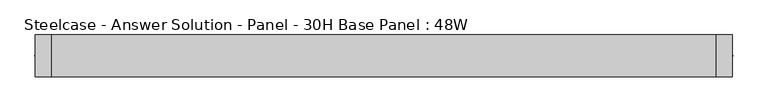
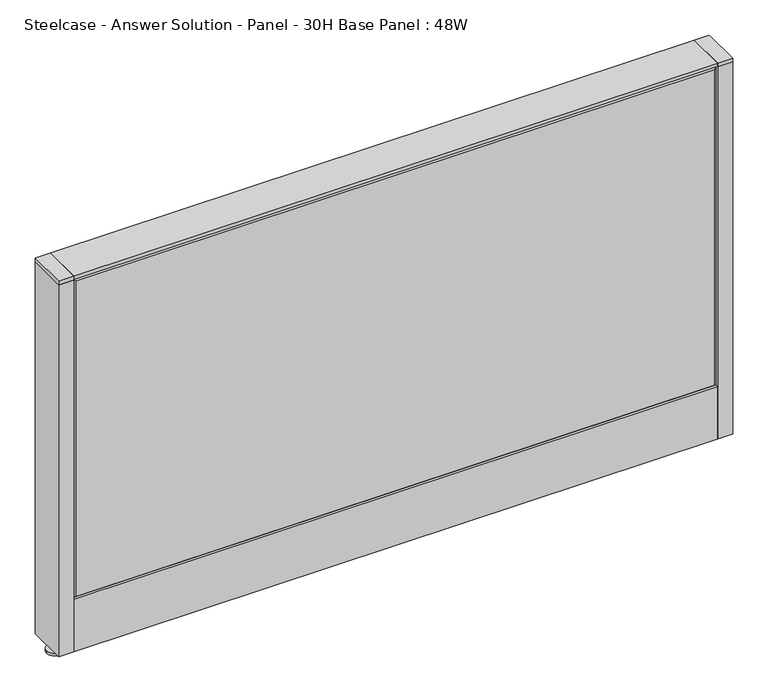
"""IFC4 building model written with IfcOpenShell, lengths in millimetres: furniture geometry, Steelcase - Answer Solution - Panel - 30H Base Panel : 48W."""

from ifc_helpers import new_model, si_unit, point, frame, frame_2d, origin, place, context, project, spatial, polyline, circle_curve, trimmed, segment, composite_curve, outline, extrude, faceted_brep, source, transform, mapped, element, save


def steelcase_answer_solution_panel_30h_base_panel_48w_a3dd4e59(model_context):
    return source(origin(), model_context, "Body", "SolidModel", [
        extrude(outline(composite_curve([segment(trimmed(circle_curve(frame_2d((623.824, 0.0320214)), 5.08), [point((628.904, 0.0320214))], [point((618.744, 0.0320214))], False, "CARTESIAN"), True, "CONTINUOUS"), segment(trimmed(circle_curve(frame_2d((623.824, 0.0320214)), 5.08), [point((618.744, 0.0320214))], [point((628.904, 0.0320214))], False, "CARTESIAN"), True, "CONTINUOUS")], self_intersect=False)), frame((0.0, 0.0, 5.0799671), z_axis=(0.0, 0.0, 1.0), x_axis=(1.0, 0.0, 0.0)), (0.0, 0.0, 1.0), 10.414),
        extrude(outline(composite_curve([segment(trimmed(circle_curve(frame_2d((623.824, 0.0320214)), 15.24), [point((639.064, 0.0320214))], [point((608.584, 0.0320214))], False, "CARTESIAN"), True, "CONTINUOUS"), segment(trimmed(circle_curve(frame_2d((623.824, 0.0320214)), 15.24), [point((608.584, 0.0320214))], [point((639.064, 0.0320214))], False, "CARTESIAN"), True, "CONTINUOUS")], self_intersect=False)), frame((0.0, 0.0, -3.29e-05), z_axis=(0.0, 0.0, 1.0), x_axis=(1.0, 0.0, 0.0)), (0.0, 0.0, 1.0), 5.08),
        extrude(outline(polyline([(638.175, 38.1320408), (638.175, -38.0679592), (609.6, -38.0679592), (609.6, 38.1320408), (638.175, 38.1320408)])), frame((0.0, 0.0, 761.0348), z_axis=(0.0, 0.0, 1.0), x_axis=(1.0, 0.0, 0.0)), (0.0, 0.0, 1.0), 7.3151671),
        extrude(outline(polyline([(638.175, 38.1320408), (638.175, -38.0679592), (609.6, -38.0679592), (609.6, 38.1320408), (638.175, 38.1320408)])), frame((0.0, 0.0, 15.4939671), z_axis=(0.0, 0.0, 1.0), x_axis=(1.0, 0.0, 0.0)), (0.0, 0.0, 1.0), 745.5408329),
        extrude(outline(composite_curve([segment(trimmed(circle_curve(frame_2d((-623.824, -0.0320214)), 5.08), [point((-628.904, -0.0320214))], [point((-618.744, -0.0320214))], False, "CARTESIAN"), True, "CONTINUOUS"), segment(trimmed(circle_curve(frame_2d((-623.824, -0.0320214)), 5.08), [point((-618.744, -0.0320214))], [point((-628.904, -0.0320214))], False, "CARTESIAN"), True, "CONTINUOUS")], self_intersect=False)), frame((0.0, 0.0, 5.0799671), z_axis=(0.0, 0.0, 1.0), x_axis=(1.0, 0.0, 0.0)), (0.0, 0.0, 1.0), 10.414),
        extrude(outline(composite_curve([segment(trimmed(circle_curve(frame_2d((-623.824, -0.0320214)), 15.24), [point((-639.064, -0.0320214))], [point((-608.584, -0.0320214))], False, "CARTESIAN"), True, "CONTINUOUS"), segment(trimmed(circle_curve(frame_2d((-623.824, -0.0320214)), 15.24), [point((-608.584, -0.0320214))], [point((-639.064, -0.0320214))], False, "CARTESIAN"), True, "CONTINUOUS")], self_intersect=False)), frame((0.0, 0.0, -3.29e-05), z_axis=(0.0, 0.0, 1.0), x_axis=(1.0, 0.0, 0.0)), (0.0, 0.0, 1.0), 5.08),
        extrude(outline(polyline([(-638.175, -38.1320408), (-638.175, 38.0679592), (-609.6, 38.0679592), (-609.6, -38.1320408), (-638.175, -38.1320408)])), frame((0.0, 0.0, 761.0348), z_axis=(0.0, 0.0, 1.0), x_axis=(1.0, 0.0, 0.0)), (0.0, 0.0, 1.0), 7.3151671),
        extrude(outline(polyline([(-638.175, -38.1320408), (-638.175, 38.0679592), (-609.6, 38.0679592), (-609.6, -38.1320408), (-638.175, -38.1320408)])), frame((0.0, 0.0, 15.4939671), z_axis=(0.0, 0.0, 1.0), x_axis=(1.0, 0.0, 0.0)), (0.0, 0.0, 1.0), 745.5408329),
        faceted_brep([(604.774, 38.1635011, 757.174), (604.774, 38.1635011, 125.476), (-604.774, 38.1635011, 125.476), (-604.774, 38.1635011, 757.174), (609.6, 33.3375011, 762.0), (-609.6, 33.3375011, 762.0), (-609.6, 33.3375011, 120.65), (609.6, 33.3375011, 120.65)], [[[0, 1, 2, 3]], [[4, 5, 6, 7]], [[4, 0, 3, 5]], [[5, 3, 2, 6]], [[6, 2, 1, 7]], [[7, 1, 0, 4]]]),
        faceted_brep([(604.774, -38.1635011, 757.174), (-604.774, -38.1635011, 757.174), (-604.774, -38.1635011, 125.476), (604.774, -38.1635011, 125.476), (609.6, -33.3375011, 762.0), (609.6, -33.3375011, 120.65), (-609.6, -33.3375011, 120.65), (-609.6, -33.3375011, 762.0)], [[[0, 1, 2, 3]], [[4, 5, 6, 7]], [[4, 7, 1, 0]], [[7, 6, 2, 1]], [[6, 5, 3, 2]], [[5, 4, 0, 3]]]),
        extrude(outline(polyline([(609.6, 38.1000194), (609.6, -38.1000194), (-609.6, -38.1000194), (-609.6, 38.1000194), (609.6, 38.1000194)])), frame((0.0, 0.0, 762.0), z_axis=(0.0, 0.0, 1.0), x_axis=(1.0, 0.0, 0.0)), (0.0, 0.0, 1.0), 6.35),
        extrude(outline(polyline([(37.3075215, 119.8575157), (25.4000011, 119.8575157), (25.4000011, 120.65), (38.1000194, 120.65), (38.1000194, 15.494), (37.3075215, 15.494), (37.3075215, 119.8575157)])), frame((-609.6, 0.0, 0.0), z_axis=(1.0, 0.0, 0.0), x_axis=(0.0, 1.0, 0.0)), (0.0, 0.0, 1.0), 1219.2),
        extrude(outline(polyline([(-37.3075215, 119.8575157), (-37.3075215, 15.494), (-38.1000194, 15.494), (-38.1000194, 120.65), (-25.4000011, 120.65), (-25.4000011, 119.8575157), (-37.3075215, 119.8575157)])), frame((-609.6, 0.0, 0.0), z_axis=(1.0, 0.0, 0.0), x_axis=(0.0, 1.0, 0.0)), (0.0, 0.0, 1.0), 1219.2),
    ])


if __name__ == "__main__":
    model = new_model("IFC4")
    model_context = context("Model", 3, world=origin())
    ifc_project = project(units=[si_unit("LENGTHUNIT", "METRE", prefix="MILLI")], contexts=[model_context])
    site = spatial("IfcSite", under=ifc_project)
    building = spatial("IfcBuilding", under=site)
    placement = place(None, origin())
    steelcase_answer_solution_panel_30h_base_panel_48w_shape = steelcase_answer_solution_panel_30h_base_panel_48w_a3dd4e59(model_context)
    element("IfcFurniture", 1, ObjectType="Steelcase - Answer Solution - Panel - 30H Base Panel : 48W", at=placement, inside=building, context=model_context, shape_type="MappedRepresentation", body=[
        mapped(steelcase_answer_solution_panel_30h_base_panel_48w_shape, transform((0.0, 0.0, 0.0), x_axis=(1.0, 0.0, 0.0), y_axis=(0.0, 1.0, 0.0), z_axis=(0.0, 0.0, 1.0))),
    ])
    save(model, "model.ifc")
